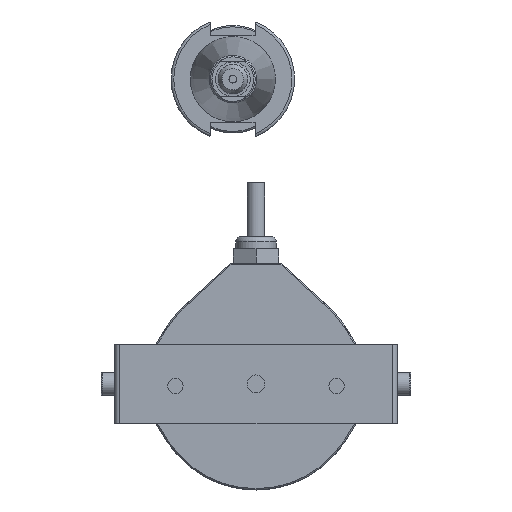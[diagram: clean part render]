
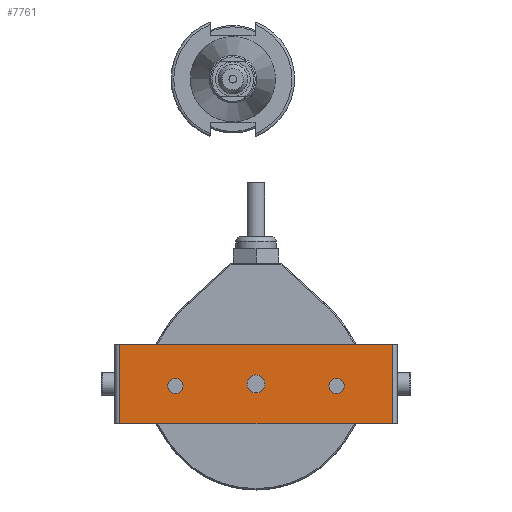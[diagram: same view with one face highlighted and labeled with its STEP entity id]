
A CAD part, front view. The second image highlights one B-rep face of the part: STEP entity #7761.
In plain terms, the highlighted planar face has unit normal (0, -1, 0) as drawn and (0, 1, 0) by its records, which use the part's own axes.
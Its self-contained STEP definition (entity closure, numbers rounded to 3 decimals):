
#486=PLANE('',#8773);
#585=FACE_BOUND('',#3065,.T.);
#586=FACE_BOUND('',#3066,.T.);
#587=FACE_BOUND('',#3067,.T.);
#1252=LINE('',#13510,#1931);
#1268=LINE('',#13552,#1947);
#1269=LINE('',#13555,#1948);
#1279=LINE('',#13590,#1958);
#1931=VECTOR('',#10853,10.);
#1947=VECTOR('',#10885,10.);
#1948=VECTOR('',#10890,10.);
#1958=VECTOR('',#10934,10.);
#2526=FACE_OUTER_BOUND('',#3064,.T.);
#3064=EDGE_LOOP('',(#7156,#7157,#7158,#7159));
#3065=EDGE_LOOP('',(#7160));
#3066=EDGE_LOOP('',(#7161));
#3067=EDGE_LOOP('',(#7162));
#3380=CIRCLE('',#8734,3.35);
#3392=CIRCLE('',#8754,2.85);
#3399=CIRCLE('',#8769,2.85);
#4030=VERTEX_POINT('',#13490);
#4037=VERTEX_POINT('',#13507);
#4038=VERTEX_POINT('',#13509);
#4055=VERTEX_POINT('',#13549);
#4056=VERTEX_POINT('',#13551);
#4058=VERTEX_POINT('',#13561);
#4065=VERTEX_POINT('',#13592);
#5056=EDGE_CURVE('',#4030,#4030,#3380,.T.);
#5065=EDGE_CURVE('',#4038,#4037,#1252,.T.);
#5086=EDGE_CURVE('',#4055,#4056,#1268,.T.);
#5088=EDGE_CURVE('',#4056,#4037,#1269,.T.);
#5091=EDGE_CURVE('',#4058,#4058,#3392,.T.);
#5106=EDGE_CURVE('',#4038,#4055,#1279,.T.);
#5107=EDGE_CURVE('',#4065,#4065,#3399,.T.);
#7156=ORIENTED_EDGE('',*,*,#5088,.F.);
#7157=ORIENTED_EDGE('',*,*,#5086,.F.);
#7158=ORIENTED_EDGE('',*,*,#5106,.F.);
#7159=ORIENTED_EDGE('',*,*,#5065,.T.);
#7160=ORIENTED_EDGE('',*,*,#5056,.T.);
#7161=ORIENTED_EDGE('',*,*,#5091,.T.);
#7162=ORIENTED_EDGE('',*,*,#5107,.T.);
#7761=ADVANCED_FACE('',(#2526,#585,#586,#587),#486,.T.);
#8734=AXIS2_PLACEMENT_3D('',#13491,#10835,#10836);
#8754=AXIS2_PLACEMENT_3D('',#13562,#10898,#10899);
#8769=AXIS2_PLACEMENT_3D('',#13593,#10937,#10938);
#8773=AXIS2_PLACEMENT_3D('',#13601,#10947,#10948);
#10835=DIRECTION('center_axis',(0.,-1.,0.));
#10836=DIRECTION('ref_axis',(1.,0.,0.));
#10853=DIRECTION('',(-1.,0.,0.));
#10885=DIRECTION('',(-1.,0.,0.));
#10890=DIRECTION('',(0.,0.,-1.));
#10898=DIRECTION('center_axis',(0.,-1.,0.));
#10899=DIRECTION('ref_axis',(-1.,0.,0.));
#10934=DIRECTION('',(0.,0.,1.));
#10937=DIRECTION('center_axis',(0.,-1.,0.));
#10938=DIRECTION('ref_axis',(1.,0.,0.));
#10947=DIRECTION('center_axis',(0.,1.,0.));
#10948=DIRECTION('ref_axis',(-1.,0.,0.));
#13490=CARTESIAN_POINT('',(-3.35,0.,14.75));
#13491=CARTESIAN_POINT('Origin',(0.,0.,14.75));
#13507=CARTESIAN_POINT('',(-50.65,0.,0.));
#13509=CARTESIAN_POINT('',(50.65,0.,0.));
#13510=CARTESIAN_POINT('',(52.65,0.,0.));
#13549=CARTESIAN_POINT('',(50.65,0.,29.5));
#13551=CARTESIAN_POINT('',(-50.65,0.,29.5));
#13552=CARTESIAN_POINT('',(52.65,0.,29.5));
#13555=CARTESIAN_POINT('',(-50.65,0.,0.));
#13561=CARTESIAN_POINT('',(-27.15,0.,13.99));
#13562=CARTESIAN_POINT('Origin',(-30.,0.,13.99));
#13590=CARTESIAN_POINT('',(50.65,0.,0.));
#13592=CARTESIAN_POINT('',(27.15,0.,13.99));
#13593=CARTESIAN_POINT('Origin',(30.,0.,13.99));
#13601=CARTESIAN_POINT('Origin',(52.65,0.,0.));
